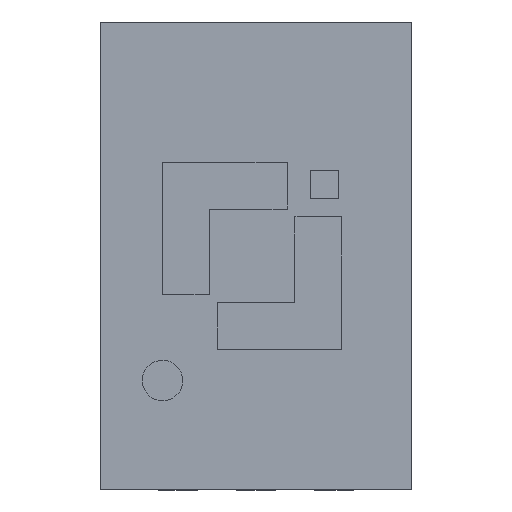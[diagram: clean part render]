
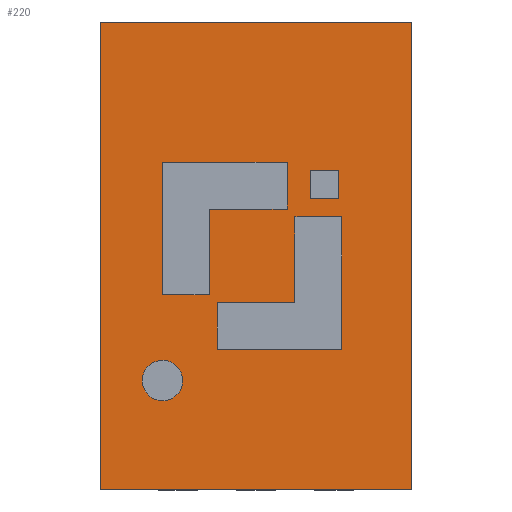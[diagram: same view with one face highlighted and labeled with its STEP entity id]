
A CAD part, top view. The second image highlights one B-rep face of the part: STEP entity #220.
In plain terms, the highlighted planar face has unit normal (0, 0, 1).
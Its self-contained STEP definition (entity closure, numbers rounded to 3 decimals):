
#27=CARTESIAN_POINT('',(0.,0.,0.725));
#28=DIRECTION('',(0.,0.,1.));
#29=DIRECTION('',(1.,0.,0.));
#30=AXIS2_PLACEMENT_3D('',#27,#28,#29);
#31=PLANE('',#30);
#32=CARTESIAN_POINT('',(-0.56,-0.676,0.725));
#33=VERTEX_POINT('',#32);
#34=CARTESIAN_POINT('',(-0.47,-0.8,0.725));
#35=VERTEX_POINT('',#34);
#36=CARTESIAN_POINT('',(-0.6,-0.8,0.725));
#37=DIRECTION('',(0.,0.,1.));
#38=DIRECTION('',(1.,0.,-0.));
#39=AXIS2_PLACEMENT_3D('',#36,#37,#38);
#40=CIRCLE('',#39,0.13);
#41=EDGE_CURVE('',#33,#35,#40,.T.);
#42=ORIENTED_EDGE('',*,*,#41,.F.);
#43=CARTESIAN_POINT('',(-0.6,-0.8,0.725));
#44=DIRECTION('',(0.,0.,1.));
#45=DIRECTION('',(1.,0.,-0.));
#46=AXIS2_PLACEMENT_3D('',#43,#44,#45);
#47=CIRCLE('',#46,0.13);
#48=EDGE_CURVE('',#35,#33,#47,.T.);
#49=ORIENTED_EDGE('',*,*,#48,.F.);
#50=EDGE_LOOP('',(#42,#49));
#51=FACE_BOUND('',#50,.T.);
#52=CARTESIAN_POINT('',(1.,1.5,0.725));
#53=VERTEX_POINT('',#52);
#54=CARTESIAN_POINT('',(1.,-1.5,0.725));
#55=VERTEX_POINT('',#54);
#56=CARTESIAN_POINT('',(1.,1.5,0.725));
#57=DIRECTION('',(0.,-1.,0.));
#58=VECTOR('',#57,3.);
#59=LINE('',#56,#58);
#60=EDGE_CURVE('',#53,#55,#59,.T.);
#61=ORIENTED_EDGE('',*,*,#60,.F.);
#62=CARTESIAN_POINT('',(-1.,1.5,0.725));
#63=VERTEX_POINT('',#62);
#64=CARTESIAN_POINT('',(-1.,1.5,0.725));
#65=DIRECTION('',(1.,0.,-0.));
#66=VECTOR('',#65,2.);
#67=LINE('',#64,#66);
#68=EDGE_CURVE('',#63,#53,#67,.T.);
#69=ORIENTED_EDGE('',*,*,#68,.F.);
#70=CARTESIAN_POINT('',(-1.,-1.5,0.725));
#71=VERTEX_POINT('',#70);
#72=CARTESIAN_POINT('',(-1.,-1.5,0.725));
#73=DIRECTION('',(0.,1.,0.));
#74=VECTOR('',#73,3.);
#75=LINE('',#72,#74);
#76=EDGE_CURVE('',#71,#63,#75,.T.);
#77=ORIENTED_EDGE('',*,*,#76,.F.);
#78=CARTESIAN_POINT('',(1.,-1.5,0.725));
#79=DIRECTION('',(-1.,0.,0.));
#80=VECTOR('',#79,2.);
#81=LINE('',#78,#80);
#82=EDGE_CURVE('',#55,#71,#81,.T.);
#83=ORIENTED_EDGE('',*,*,#82,.F.);
#84=EDGE_LOOP('',(#61,#69,#77,#83));
#85=FACE_BOUND('',#84,.T.);
#86=CARTESIAN_POINT('',(0.35,0.55,0.725));
#87=VERTEX_POINT('',#86);
#88=CARTESIAN_POINT('',(0.53,0.55,0.725));
#89=VERTEX_POINT('',#88);
#90=CARTESIAN_POINT('',(0.35,0.55,0.725));
#91=DIRECTION('',(1.,0.,-0.));
#92=VECTOR('',#91,0.18);
#93=LINE('',#90,#92);
#94=EDGE_CURVE('',#87,#89,#93,.T.);
#95=ORIENTED_EDGE('',*,*,#94,.T.);
#96=CARTESIAN_POINT('',(0.53,0.37,0.725));
#97=VERTEX_POINT('',#96);
#98=CARTESIAN_POINT('',(0.53,0.55,0.725));
#99=DIRECTION('',(0.,-1.,0.));
#100=VECTOR('',#99,0.18);
#101=LINE('',#98,#100);
#102=EDGE_CURVE('',#89,#97,#101,.T.);
#103=ORIENTED_EDGE('',*,*,#102,.T.);
#104=CARTESIAN_POINT('',(0.35,0.37,0.725));
#105=VERTEX_POINT('',#104);
#106=CARTESIAN_POINT('',(0.53,0.37,0.725));
#107=DIRECTION('',(-1.,0.,0.));
#108=VECTOR('',#107,0.18);
#109=LINE('',#106,#108);
#110=EDGE_CURVE('',#97,#105,#109,.T.);
#111=ORIENTED_EDGE('',*,*,#110,.T.);
#112=CARTESIAN_POINT('',(0.35,0.37,0.725));
#113=DIRECTION('',(0.,1.,0.));
#114=VECTOR('',#113,0.18);
#115=LINE('',#112,#114);
#116=EDGE_CURVE('',#105,#87,#115,.T.);
#117=ORIENTED_EDGE('',*,*,#116,.T.);
#118=EDGE_LOOP('',(#95,#103,#111,#117));
#119=FACE_BOUND('',#118,.T.);
#120=CARTESIAN_POINT('',(-0.6,0.6,0.725));
#121=VERTEX_POINT('',#120);
#122=CARTESIAN_POINT('',(0.2,0.6,0.725));
#123=VERTEX_POINT('',#122);
#124=CARTESIAN_POINT('',(-0.6,0.6,0.725));
#125=DIRECTION('',(1.,0.,-0.));
#126=VECTOR('',#125,0.8);
#127=LINE('',#124,#126);
#128=EDGE_CURVE('',#121,#123,#127,.T.);
#129=ORIENTED_EDGE('',*,*,#128,.T.);
#130=CARTESIAN_POINT('',(0.2,0.3,0.725));
#131=VERTEX_POINT('',#130);
#132=CARTESIAN_POINT('',(0.2,0.6,0.725));
#133=DIRECTION('',(0.,-1.,0.));
#134=VECTOR('',#133,0.3);
#135=LINE('',#132,#134);
#136=EDGE_CURVE('',#123,#131,#135,.T.);
#137=ORIENTED_EDGE('',*,*,#136,.T.);
#138=CARTESIAN_POINT('',(-0.3,0.3,0.725));
#139=VERTEX_POINT('',#138);
#140=CARTESIAN_POINT('',(0.2,0.3,0.725));
#141=DIRECTION('',(-1.,0.,0.));
#142=VECTOR('',#141,0.5);
#143=LINE('',#140,#142);
#144=EDGE_CURVE('',#131,#139,#143,.T.);
#145=ORIENTED_EDGE('',*,*,#144,.T.);
#146=CARTESIAN_POINT('',(-0.3,-0.25,0.725));
#147=VERTEX_POINT('',#146);
#148=CARTESIAN_POINT('',(-0.3,0.3,0.725));
#149=DIRECTION('',(0.,-1.,0.));
#150=VECTOR('',#149,0.55);
#151=LINE('',#148,#150);
#152=EDGE_CURVE('',#139,#147,#151,.T.);
#153=ORIENTED_EDGE('',*,*,#152,.T.);
#154=CARTESIAN_POINT('',(-0.6,-0.25,0.725));
#155=VERTEX_POINT('',#154);
#156=CARTESIAN_POINT('',(-0.3,-0.25,0.725));
#157=DIRECTION('',(-1.,0.,0.));
#158=VECTOR('',#157,0.3);
#159=LINE('',#156,#158);
#160=EDGE_CURVE('',#147,#155,#159,.T.);
#161=ORIENTED_EDGE('',*,*,#160,.T.);
#162=CARTESIAN_POINT('',(-0.6,-0.25,0.725));
#163=DIRECTION('',(0.,1.,0.));
#164=VECTOR('',#163,0.85);
#165=LINE('',#162,#164);
#166=EDGE_CURVE('',#155,#121,#165,.T.);
#167=ORIENTED_EDGE('',*,*,#166,.T.);
#168=EDGE_LOOP('',(#129,#137,#145,#153,#161,#167));
#169=FACE_BOUND('',#168,.T.);
#170=CARTESIAN_POINT('',(0.25,0.25,0.725));
#171=VERTEX_POINT('',#170);
#172=CARTESIAN_POINT('',(0.55,0.25,0.725));
#173=VERTEX_POINT('',#172);
#174=CARTESIAN_POINT('',(0.25,0.25,0.725));
#175=DIRECTION('',(1.,0.,-0.));
#176=VECTOR('',#175,0.3);
#177=LINE('',#174,#176);
#178=EDGE_CURVE('',#171,#173,#177,.T.);
#179=ORIENTED_EDGE('',*,*,#178,.T.);
#180=CARTESIAN_POINT('',(0.55,-0.6,0.725));
#181=VERTEX_POINT('',#180);
#182=CARTESIAN_POINT('',(0.55,0.25,0.725));
#183=DIRECTION('',(0.,-1.,0.));
#184=VECTOR('',#183,0.85);
#185=LINE('',#182,#184);
#186=EDGE_CURVE('',#173,#181,#185,.T.);
#187=ORIENTED_EDGE('',*,*,#186,.T.);
#188=CARTESIAN_POINT('',(-0.25,-0.6,0.725));
#189=VERTEX_POINT('',#188);
#190=CARTESIAN_POINT('',(0.55,-0.6,0.725));
#191=DIRECTION('',(-1.,0.,0.));
#192=VECTOR('',#191,0.8);
#193=LINE('',#190,#192);
#194=EDGE_CURVE('',#181,#189,#193,.T.);
#195=ORIENTED_EDGE('',*,*,#194,.T.);
#196=CARTESIAN_POINT('',(-0.25,-0.3,0.725));
#197=VERTEX_POINT('',#196);
#198=CARTESIAN_POINT('',(-0.25,-0.6,0.725));
#199=DIRECTION('',(0.,1.,0.));
#200=VECTOR('',#199,0.3);
#201=LINE('',#198,#200);
#202=EDGE_CURVE('',#189,#197,#201,.T.);
#203=ORIENTED_EDGE('',*,*,#202,.T.);
#204=CARTESIAN_POINT('',(0.25,-0.3,0.725));
#205=VERTEX_POINT('',#204);
#206=CARTESIAN_POINT('',(-0.25,-0.3,0.725));
#207=DIRECTION('',(1.,0.,-0.));
#208=VECTOR('',#207,0.5);
#209=LINE('',#206,#208);
#210=EDGE_CURVE('',#197,#205,#209,.T.);
#211=ORIENTED_EDGE('',*,*,#210,.T.);
#212=CARTESIAN_POINT('',(0.25,-0.3,0.725));
#213=DIRECTION('',(0.,1.,0.));
#214=VECTOR('',#213,0.55);
#215=LINE('',#212,#214);
#216=EDGE_CURVE('',#205,#171,#215,.T.);
#217=ORIENTED_EDGE('',*,*,#216,.T.);
#218=EDGE_LOOP('',(#179,#187,#195,#203,#211,#217));
#219=FACE_BOUND('',#218,.T.);
#220=ADVANCED_FACE('',(#51,#85,#119,#169,#219),#31,.T.);
